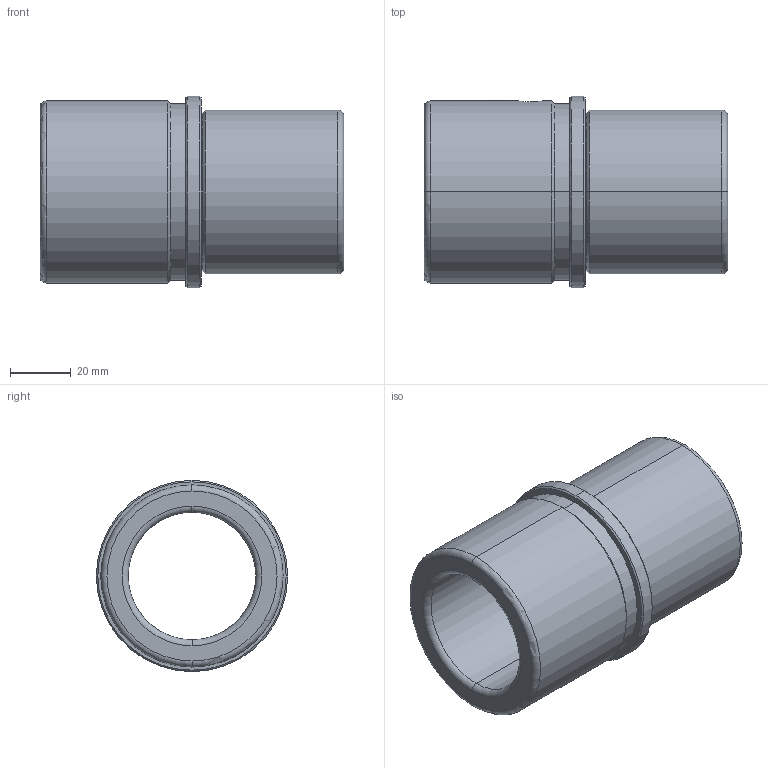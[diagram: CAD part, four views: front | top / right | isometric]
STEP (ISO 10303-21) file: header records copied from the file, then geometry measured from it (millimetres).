
FILE_DESCRIPTION(('CATIA V5 STEP Exchange'),'2;1');
FILE_NAME('C:\Users\Utente\Desktop\IO LAVORO\3D X SITO CF\X SITO\FAMO\FAMO-SF1-D42 x 100.stp','2021-01-06T17:05:22+00:00',('none'),('none'),'CATIA Version 5 Release 20 GA (IN-10)','CATIA V5 STEP AP203','none');
FILE_SCHEMA(('CONFIG_CONTROL_DESIGN'));
Length unit declared in the file: millimetre
Products named in the file (1): FAMO-SF1-D42 x 100
Bounding box: 100 x 63 x 63 mm (x, y, z)
Volume: 117821.1 mm3; surface area: 34839.7 mm2
Topology: 1 solids, 1 shells, 37 faces, 126 edges, 94 vertices
Faces by surface type: cylinder 14, cone 10, torus 8, plane 5
Entity records: 1640 total; most frequent: CARTESIAN_POINT 508, ORIENTED_EDGE 252, DIRECTION 180, EDGE_CURVE 126, AXIS2_PLACEMENT_3D 120, VERTEX_POINT 94, CIRCLE 82, EDGE_LOOP 44
